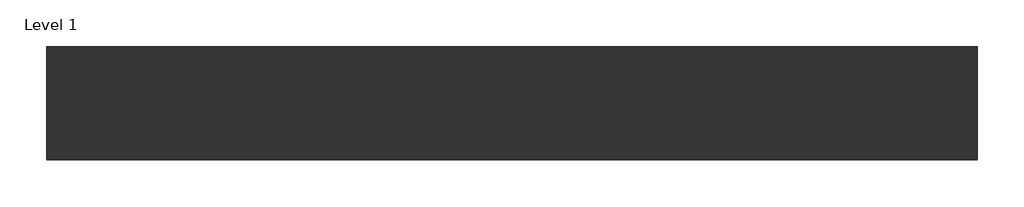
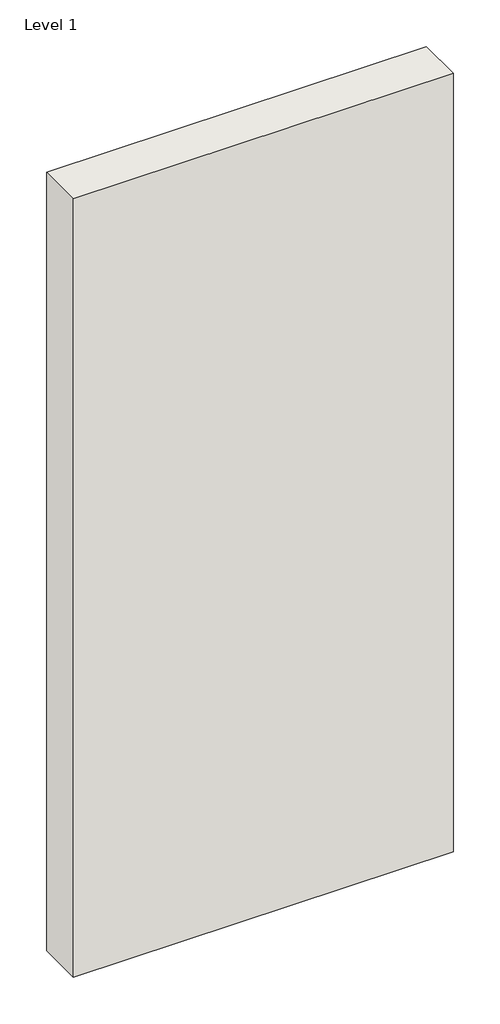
# One storey: 1 wall.
"""IFC4 building model written with IfcOpenShell, lengths in millimetres."""

import ifcopenshell
import ifcopenshell.guid

model = None  # the IFC model being written
_history = None  # IfcOwnerHistory: only IFC2X3 demands one
_inside = {}  # id of a spatial element -> (the spatial element, [elements in it])
_under = {}  # id of a project, library or spatial element -> (it, [spatial elements below it])
_declared = {}  # id of a project -> (the project, [libraries it declares])
_typed = {}  # id of a type object -> (the type object, [elements of that type])
_made_of = {}  # id of a material, layer set ... -> (it, [elements and type objects made of it])


def new_model(schema):
    """Start an empty IFC model of exactly this schema.

    Asked for "IFC4X3", IfcOpenShell would pick the latest addendum, in which some entities
    have other attributes; the version numbers below select the first issue.
    IFC2X3 requires an IfcOwnerHistory on every rooted entity: one is made here for all.
    """
    global model, _history
    if schema == "IFC4X3":
        model = ifcopenshell.file(schema_version=(4, 3, 0, 0))
    else:
        model = ifcopenshell.file(schema=schema)
    _inside.clear()
    _under.clear()
    _declared.clear()
    _typed.clear()
    _made_of.clear()
    _history = None
    if model.schema == "IFC2X3":
        org = make("IfcOrganization", Name="unknown")
        user = make(
            "IfcPersonAndOrganization",
            ThePerson=make("IfcPerson", FamilyName="unknown"),
            TheOrganization=org,
        )
        app = make(
            "IfcApplication",
            ApplicationDeveloper=org,
            Version="unknown",
            ApplicationFullName="unknown",
            ApplicationIdentifier="unknown",
        )
        _history = make(
            "IfcOwnerHistory",
            OwningUser=user,
            OwningApplication=app,
            ChangeAction="ADDED",
            CreationDate=0,
        )
    return model


def make(cls, **values):
    """One entity of the class cls with the attributes given. An attribute that is None is left unset."""
    return model.create_entity(
        cls, **{name: value for name, value in values.items() if value is not None}
    )


def rooted(cls, **values):
    """An entity with a GlobalId (a new one), such as an element, a storey or a relation."""
    return make(cls, GlobalId=ifcopenshell.guid.new(), OwnerHistory=_history, **values)


def si_unit(unit_type, name, prefix=None):
    """IfcSIUnit, for example si_unit("LENGTHUNIT", "METRE", prefix="MILLI")."""
    return make("IfcSIUnit", UnitType=unit_type, Prefix=prefix, Name=name)


def assignment(units):
    """IfcUnitAssignment: the units of a project."""
    return None if units is None else make("IfcUnitAssignment", Units=units)


def point(xyz):
    """IfcCartesianPoint."""
    return None if xyz is None else make("IfcCartesianPoint", Coordinates=xyz)


def direction(xyz):
    """IfcDirection."""
    return None if xyz is None else make("IfcDirection", DirectionRatios=xyz)


def frame(location, z_axis=None, x_axis=None):
    """IfcAxis2Placement3D, a coordinate frame: its origin and axes. An axis left out is left unset."""
    return make(
        "IfcAxis2Placement3D",
        Location=point(location),
        Axis=direction(z_axis),
        RefDirection=direction(x_axis),
    )


def origin():
    """The frame at (0, 0, 0) with its axes left unset."""
    return frame((0.0, 0.0, 0.0))


def origin_with_axes():
    """The frame at (0, 0, 0) with the z axis (0, 0, 1) and the x axis (1, 0, 0) written out."""
    return frame((0.0, 0.0, 0.0), z_axis=(0.0, 0.0, 1.0), x_axis=(1.0, 0.0, 0.0))


def place(relative_to, where):
    """IfcLocalPlacement: puts the frame where relative to a parent placement (None: the world)."""
    return make(
        "IfcLocalPlacement", PlacementRelTo=relative_to, RelativePlacement=where
    )


def context(
    kind, dimensions, precision=None, world=None, true_north=None, identifier=None
):
    """IfcGeometricRepresentationContext, for example the 3D "Model" context."""
    return make(
        "IfcGeometricRepresentationContext",
        ContextIdentifier=identifier,
        ContextType=kind,
        CoordinateSpaceDimension=dimensions,
        Precision=precision,
        WorldCoordinateSystem=world,
        TrueNorth=true_north,
    )


def project(units=None, contexts=None):
    """IfcProject with its units and contexts."""
    return rooted(
        "IfcProject",
        Name="project",
        RepresentationContexts=contexts,
        UnitsInContext=assignment(units),
    )


def spatial(cls, under=None, at=None, **own):
    """A site, building, storey or space (cls), placed at a placement, below another one or the project."""
    s = rooted(cls, ObjectPlacement=at, **own)
    if under is not None:
        _under.setdefault(under.id(), (under, []))[1].append(s)
    return s


def polyline(points):
    """IfcPolyline through the points."""
    return make("IfcPolyline", Points=[point(p) for p in points])


def outline(outer, holes=None, kind="AREA"):
    """IfcArbitraryClosedProfileDef: a profile drawn as a closed curve; with holes, ...WithVoids."""
    if holes is None:
        return make("IfcArbitraryClosedProfileDef", ProfileType=kind, OuterCurve=outer)
    return make(
        "IfcArbitraryProfileDefWithVoids",
        ProfileType=kind,
        OuterCurve=outer,
        InnerCurves=holes,
    )


def extrude(swept, where, along, depth):
    """IfcExtrudedAreaSolid: the profile swept, set in the frame where, extruded along a direction by depth."""
    return make(
        "IfcExtrudedAreaSolid",
        SweptArea=swept,
        Position=where,
        ExtrudedDirection=direction(along),
        Depth=depth,
    )


def shape(context_of_items, identifier, shape_type, items):
    """IfcShapeRepresentation: the items that make up one representation, for example the "Body"."""
    return make(
        "IfcShapeRepresentation",
        ContextOfItems=context_of_items,
        RepresentationIdentifier=identifier,
        RepresentationType=shape_type,
        Items=items,
    )


def made_of(thing, what):
    """Note that an element or type object is made of a material, layer set ...; save() writes the relation."""
    if what is not None:
        _made_of.setdefault(what.id(), (what, []))[1].append(thing)
    return thing


def element(
    cls,
    number,
    at=None,
    inside=None,
    cuts=None,
    type_object=None,
    material=None,
    context=None,
    identifier="Body",
    shape_type=None,
    held_by="IfcProductDefinitionShape",
    body=None,
    shapes=None,
    **own,
):
    """One element of the class cls, such as IfcWall. Its Tag is "e" and its number.

    at: its placement. inside: the storey or other place that contains it. cuts: it is an
    opening in that element (IfcRelVoidsElement). A single representation is given by context,
    identifier, shape_type and body (its items); several are given by shapes. held_by: the class
    of the entity that holds the representations. save() writes the other relations.
    """
    e = rooted(cls, Tag="e%d" % number, ObjectPlacement=at, **own)
    if body is not None:
        shapes = [shape(context, identifier, shape_type, body)]
    if shapes is not None:
        e.Representation = make(held_by, Representations=shapes)
    if inside is not None:
        _inside.setdefault(inside.id(), (inside, []))[1].append(e)
    if cuts is not None:
        rooted(
            "IfcRelVoidsElement", RelatingBuildingElement=cuts, RelatedOpeningElement=e
        )
    if type_object is not None:
        _typed.setdefault(type_object.id(), (type_object, []))[1].append(e)
    return made_of(e, material)


def aggregate(whole, parts):
    """IfcRelAggregates: a whole, such as a stair, and the parts it consists of."""
    return rooted("IfcRelAggregates", RelatingObject=whole, RelatedObjects=parts)


def save(model, path):
    """Write the relations noted so far, then the file.

    IfcRelAggregates (storeys below a building ...), IfcRelContainedInSpatialStructure (elements
    in a storey), IfcRelDefinesByType, IfcRelAssociatesMaterial and IfcRelDeclares: one each for
    every whole, place, type object, material and project.
    """
    for whole, parts in _under.values():
        aggregate(whole, parts)
    for where, things in _inside.values():
        rooted(
            "IfcRelContainedInSpatialStructure",
            RelatedElements=things,
            RelatingStructure=where,
        )
    for kind, things in _typed.values():
        rooted("IfcRelDefinesByType", RelatedObjects=things, RelatingType=kind)
    for what, things in _made_of.values():
        rooted("IfcRelAssociatesMaterial", RelatedObjects=things, RelatingMaterial=what)
    for by, libraries in _declared.values():
        rooted("IfcRelDeclares", RelatingContext=by, RelatedDefinitions=libraries)
    model.write(path)


model = new_model("IFC4")

# Units and contexts
model_context = context("Model", 3, world=origin())
ifc_project = project(units=[si_unit("LENGTHUNIT", "METRE", prefix="MILLI")], contexts=[model_context])

# Site, building, storey
site = spatial("IfcSite", under=ifc_project)
building = spatial("IfcBuilding", under=site)
storey = spatial("IfcBuildingStorey", under=building, Name="Level 1", Elevation=0.0)

# Wall
placement = place(None, origin())
element("IfcWall", 1, ObjectType="Tabique Doble – Placo® 146(48) 2xBA13 + 2x48LM + 2xBA13 c/400 - 55,9 dBA", at=placement, inside=storey, context=model_context, shape_type="SweptSolid", body=[
    extrude(outline(polyline([(-27296.4711674, -80618.3970389), (-28496.4711674, -80618.3970389), (-28496.4711674, -80472.3970389), (-27296.4711674, -80472.3970389), (-27296.4711674, -80618.3970389)])), origin_with_axes(), (0.0, 0.0, 1.0), 2600.0),
])

save(model, "model.ifc")
